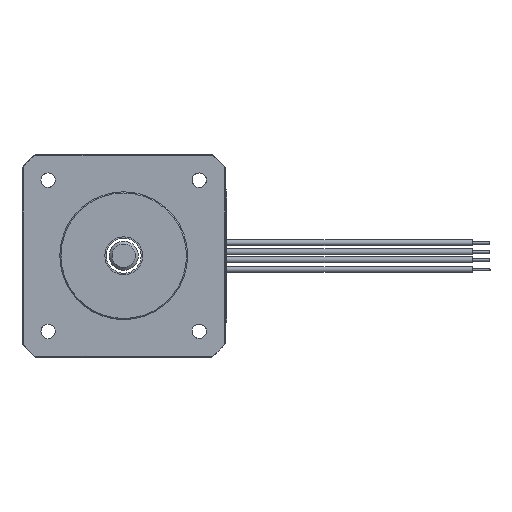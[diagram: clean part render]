
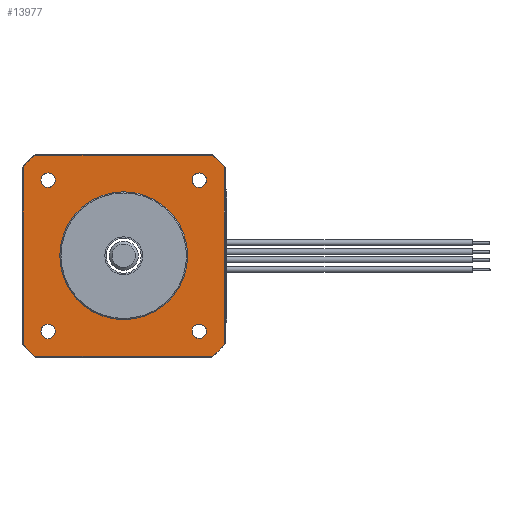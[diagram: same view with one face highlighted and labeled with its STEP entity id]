
A CAD part, left-side view. The second image highlights one B-rep face of the part: STEP entity #13977.
In plain terms, the highlighted planar face has unit normal (-1, 0, 0).
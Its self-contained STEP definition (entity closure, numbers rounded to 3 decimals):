
#12206=CARTESIAN_POINT('',(-6.,-17.3,15.308));
#12207=VERTEX_POINT('',#12206);
#12208=CARTESIAN_POINT('',(-6.,-17.3,-15.308));
#12209=VERTEX_POINT('',#12208);
#12210=CARTESIAN_POINT('',(-6.,-17.3,15.308));
#12211=DIRECTION('',(0.,0.,-1.));
#12212=VECTOR('',#12211,30.615);
#12213=LINE('',#12210,#12212);
#12214=EDGE_CURVE('',#12207,#12209,#12213,.T.);
#12237=CARTESIAN_POINT('',(-6.,-15.308,-17.3));
#12238=VERTEX_POINT('',#12237);
#12249=CARTESIAN_POINT('',(-6.,0.,0.));
#12250=DIRECTION('',(0.,-0.749,-0.663));
#12251=DIRECTION('',(1.,-0.,0.));
#12252=AXIS2_PLACEMENT_3D('',#12249,#12251,#12250);
#12253=CIRCLE('',#12252,23.1);
#12254=EDGE_CURVE('',#12209,#12238,#12253,.T.);
#12435=CARTESIAN_POINT('',(-6.,-15.308,17.3));
#12436=VERTEX_POINT('',#12435);
#12443=CARTESIAN_POINT('',(-6.,0.,0.));
#12444=DIRECTION('',(0.,-0.663,0.749));
#12445=DIRECTION('',(1.,0.,0.));
#12446=AXIS2_PLACEMENT_3D('',#12443,#12445,#12444);
#12447=CIRCLE('',#12446,23.1);
#12448=EDGE_CURVE('',#12436,#12207,#12447,.T.);
#12458=CARTESIAN_POINT('',(-6.,-11.75,-13.));
#12459=VERTEX_POINT('',#12458);
#12466=CARTESIAN_POINT('',(-6.,-14.25,-13.));
#12467=VERTEX_POINT('',#12466);
#12468=CARTESIAN_POINT('',(-6.,-13.,-13.));
#12469=DIRECTION('',(0.,1.,0.));
#12470=DIRECTION('',(-1.,0.,0.));
#12471=AXIS2_PLACEMENT_3D('',#12468,#12470,#12469);
#12472=CIRCLE('',#12471,1.25);
#12473=EDGE_CURVE('',#12459,#12467,#12472,.T.);
#12495=CARTESIAN_POINT('',(-6.,-13.,-13.));
#12496=DIRECTION('',(0.,-1.,0.));
#12497=DIRECTION('',(-1.,0.,0.));
#12498=AXIS2_PLACEMENT_3D('',#12495,#12497,#12496);
#12499=CIRCLE('',#12498,1.25);
#12500=EDGE_CURVE('',#12467,#12459,#12499,.T.);
#12512=CARTESIAN_POINT('',(-6.,15.308,-17.3));
#12513=VERTEX_POINT('',#12512);
#12514=CARTESIAN_POINT('',(-6.,-15.308,-17.3));
#12515=DIRECTION('',(0.,1.,0.));
#12516=VECTOR('',#12515,30.615);
#12517=LINE('',#12514,#12516);
#12518=EDGE_CURVE('',#12238,#12513,#12517,.T.);
#12536=CARTESIAN_POINT('',(-6.,17.3,-15.308));
#12537=VERTEX_POINT('',#12536);
#12555=CARTESIAN_POINT('',(-6.,0.,0.));
#12556=DIRECTION('',(0.,0.663,-0.749));
#12557=DIRECTION('',(1.,0.,0.));
#12558=AXIS2_PLACEMENT_3D('',#12555,#12557,#12556);
#12559=CIRCLE('',#12558,23.1);
#12560=EDGE_CURVE('',#12513,#12537,#12559,.T.);
#12633=CARTESIAN_POINT('',(-6.,13.,-11.75));
#12634=VERTEX_POINT('',#12633);
#12641=CARTESIAN_POINT('',(-6.,13.,-14.25));
#12642=VERTEX_POINT('',#12641);
#12643=CARTESIAN_POINT('',(-6.,13.,-13.));
#12644=DIRECTION('',(0.,0.,1.));
#12645=DIRECTION('',(-1.,0.,0.));
#12646=AXIS2_PLACEMENT_3D('',#12643,#12645,#12644);
#12647=CIRCLE('',#12646,1.25);
#12648=EDGE_CURVE('',#12634,#12642,#12647,.T.);
#12670=CARTESIAN_POINT('',(-6.,13.,-13.));
#12671=DIRECTION('',(0.,0.,-1.));
#12672=DIRECTION('',(-1.,0.,0.));
#12673=AXIS2_PLACEMENT_3D('',#12670,#12672,#12671);
#12674=CIRCLE('',#12673,1.25);
#12675=EDGE_CURVE('',#12642,#12634,#12674,.T.);
#12707=CARTESIAN_POINT('',(-6.,11.75,13.));
#12708=VERTEX_POINT('',#12707);
#12715=CARTESIAN_POINT('',(-6.,14.25,13.));
#12716=VERTEX_POINT('',#12715);
#12717=CARTESIAN_POINT('',(-6.,13.,13.));
#12718=DIRECTION('',(0.,-1.,0.));
#12719=DIRECTION('',(-1.,0.,0.));
#12720=AXIS2_PLACEMENT_3D('',#12717,#12719,#12718);
#12721=CIRCLE('',#12720,1.25);
#12722=EDGE_CURVE('',#12708,#12716,#12721,.T.);
#12744=CARTESIAN_POINT('',(-6.,13.,13.));
#12745=DIRECTION('',(0.,1.,0.));
#12746=DIRECTION('',(-1.,0.,0.));
#12747=AXIS2_PLACEMENT_3D('',#12744,#12746,#12745);
#12748=CIRCLE('',#12747,1.25);
#12749=EDGE_CURVE('',#12716,#12708,#12748,.T.);
#12863=CARTESIAN_POINT('',(-6.,-13.,11.75));
#12864=VERTEX_POINT('',#12863);
#12871=CARTESIAN_POINT('',(-6.,-13.,14.25));
#12872=VERTEX_POINT('',#12871);
#12873=CARTESIAN_POINT('',(-6.,-13.,13.));
#12874=DIRECTION('',(0.,0.,-1.));
#12875=DIRECTION('',(-1.,0.,0.));
#12876=AXIS2_PLACEMENT_3D('',#12873,#12875,#12874);
#12877=CIRCLE('',#12876,1.25);
#12878=EDGE_CURVE('',#12864,#12872,#12877,.T.);
#12900=CARTESIAN_POINT('',(-6.,-13.,13.));
#12901=DIRECTION('',(0.,0.,1.));
#12902=DIRECTION('',(-1.,0.,0.));
#12903=AXIS2_PLACEMENT_3D('',#12900,#12902,#12901);
#12904=CIRCLE('',#12903,1.25);
#12905=EDGE_CURVE('',#12872,#12864,#12904,.T.);
#13906=CARTESIAN_POINT('',(-6.,0.,0.));
#13907=DIRECTION('',(0.,0.,-1.));
#13908=DIRECTION('',(-1.,-0.,-0.));
#13909=AXIS2_PLACEMENT_3D('',#13906,#13908,#13907);
#13910=PLANE('',#13909);
#13911=CARTESIAN_POINT('',(-6.,17.3,15.308));
#13912=VERTEX_POINT('',#13911);
#13913=CARTESIAN_POINT('',(-6.,17.3,15.308));
#13914=DIRECTION('',(0.,0.,-1.));
#13915=VECTOR('',#13914,30.615);
#13916=LINE('',#13913,#13915);
#13917=EDGE_CURVE('',#13912,#12537,#13916,.T.);
#13918=ORIENTED_EDGE('E381',*,*,#13917,.T.);
#13919=ORIENTED_EDGE('E381',*,*,#12560,.F.);
#13920=ORIENTED_EDGE('E381',*,*,#12518,.F.);
#13921=ORIENTED_EDGE('E381',*,*,#12254,.F.);
#13922=ORIENTED_EDGE('E381',*,*,#12214,.F.);
#13923=ORIENTED_EDGE('E381',*,*,#12448,.F.);
#13924=CARTESIAN_POINT('',(-6.,15.308,17.3));
#13925=VERTEX_POINT('',#13924);
#13926=CARTESIAN_POINT('',(-6.,-15.308,17.3));
#13927=DIRECTION('',(0.,1.,0.));
#13928=VECTOR('',#13927,30.615);
#13929=LINE('',#13926,#13928);
#13930=EDGE_CURVE('',#12436,#13925,#13929,.T.);
#13931=ORIENTED_EDGE('E382',*,*,#13930,.T.);
#13932=CARTESIAN_POINT('',(-6.,0.,0.));
#13933=DIRECTION('',(0.,0.663,0.749));
#13934=DIRECTION('',(-1.,0.,-0.));
#13935=AXIS2_PLACEMENT_3D('',#13932,#13934,#13933);
#13936=CIRCLE('',#13935,23.1);
#13937=EDGE_CURVE('',#13925,#13912,#13936,.T.);
#13938=ORIENTED_EDGE('E383',*,*,#13937,.T.);
#13939=EDGE_LOOP('',(#13918,#13919,#13920,#13921,#13922,#13923,#13931,#13938));
#13940=FACE_OUTER_BOUND('',#13939,.T.);
#13941=ORIENTED_EDGE('',*,*,#12905,.F.);
#13942=ORIENTED_EDGE('',*,*,#12878,.F.);
#13943=EDGE_LOOP('',(#13941,#13942));
#13944=FACE_BOUND('',#13943,.T.);
#13945=ORIENTED_EDGE('',*,*,#12749,.F.);
#13946=ORIENTED_EDGE('',*,*,#12722,.F.);
#13947=EDGE_LOOP('',(#13945,#13946));
#13948=FACE_BOUND('',#13947,.T.);
#13949=ORIENTED_EDGE('',*,*,#12675,.F.);
#13950=ORIENTED_EDGE('',*,*,#12648,.F.);
#13951=EDGE_LOOP('',(#13949,#13950));
#13952=FACE_BOUND('',#13951,.T.);
#13953=ORIENTED_EDGE('',*,*,#12500,.F.);
#13954=ORIENTED_EDGE('',*,*,#12473,.F.);
#13955=EDGE_LOOP('',(#13953,#13954));
#13956=FACE_BOUND('',#13955,.T.);
#13957=CARTESIAN_POINT('',(-6.,11.,0.));
#13958=VERTEX_POINT('',#13957);
#13959=CARTESIAN_POINT('',(-6.,-11.,0.));
#13960=VERTEX_POINT('',#13959);
#13961=CARTESIAN_POINT('',(-6.,0.,0.));
#13962=DIRECTION('',(0.,1.,0.));
#13963=DIRECTION('',(1.,0.,0.));
#13964=AXIS2_PLACEMENT_3D('',#13961,#13963,#13962);
#13965=CIRCLE('',#13964,11.);
#13966=EDGE_CURVE('',#13958,#13960,#13965,.T.);
#13967=ORIENTED_EDGE('E384',*,*,#13966,.T.);
#13968=CARTESIAN_POINT('',(-6.,0.,0.));
#13969=DIRECTION('',(0.,-1.,0.));
#13970=DIRECTION('',(1.,0.,0.));
#13971=AXIS2_PLACEMENT_3D('',#13968,#13970,#13969);
#13972=CIRCLE('',#13971,11.);
#13973=EDGE_CURVE('',#13960,#13958,#13972,.T.);
#13974=ORIENTED_EDGE('E385',*,*,#13973,.T.);
#13975=EDGE_LOOP('',(#13967,#13974));
#13976=FACE_BOUND('',#13975,.T.);
#13977=ADVANCED_FACE('F107',(#13940,#13944,#13948,#13952,#13956,#13976),#13910,.T.);
